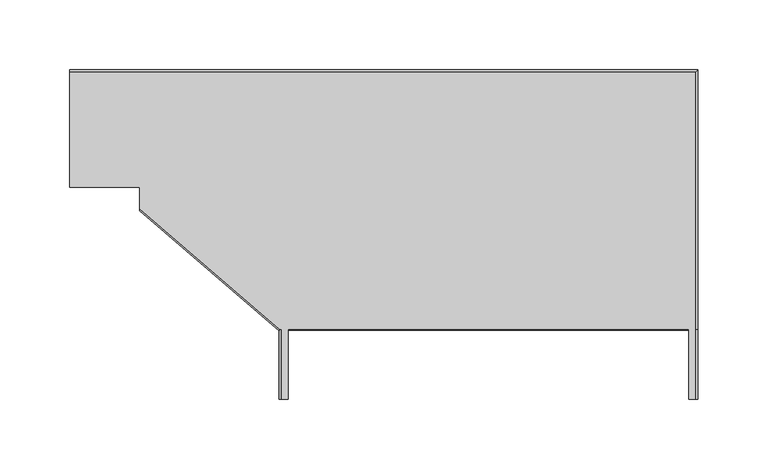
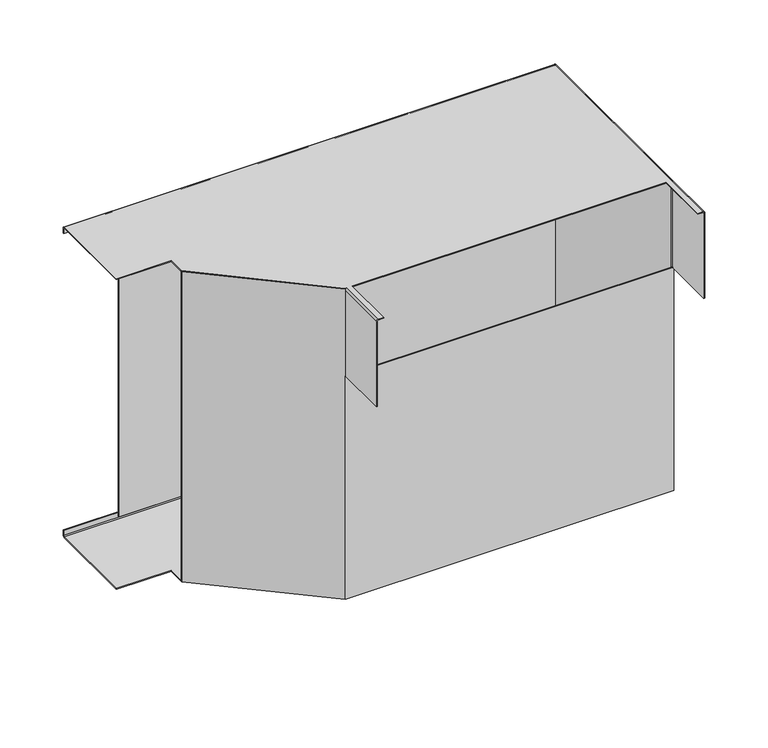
"""IFC4 building model written with IfcOpenShell, lengths in millimetres: cable carrier fitting geometry, КМ Профиль Угол внутренний вертикальный с разворотом трассы на 90 NLPD90-R : Угол внутренний вертикальный с разворотом трассы на 90 NLPD90-R."""

from ifc_helpers import new_model, si_unit, frame, origin, place, context, project, spatial, polyline, circle_curve, ellipse_curve, outline, extrude, faceted_brep, source, transform, mapped, element, save
from ifc_brep_helpers import plane_surface, cylinder_surface, revolved_surface, advanced_brep


def cable_carrier_fitting_8e6cfca8(model_context):
    return source(origin(), model_context, "Body", "SolidModel", [
        faceted_brep([(150.0, -135.8, 66.0), (-150.0, -135.8, 66.0), (-150.0, -136.6, 66.0), (150.0, -136.6, 66.0), (150.0, -135.8, -150.0), (150.0, -136.6, -150.0), (-150.0, -136.6, -150.0), (-150.0, -136.8541086, -150.0), (-250.0, -51.0541086, -150.0), (-250.0, -50.0, -150.0), (-150.0, -135.8, -150.0), (-150.0, -135.8, 150.0), (-250.0, -50.0, 150.0), (-250.0, -51.0541086, 150.0), (-150.0, -136.8541086, 150.0)], [[[0, 1, 2, 3]], [[4, 5, 6, 7, 8, 9, 10]], [[1, 0, 4, 10]], [[3, 2, 6, 5]], [[0, 3, 5, 4]], [[11, 12, 13, 14]], [[12, 11, 1, 10, 9]], [[13, 12, 9, 8]], [[14, 13, 8, 7]], [[11, 14, 7, 6, 2, 1]]]),
        extrude(outline(polyline([(-250.0, 48.4), (-250.0, 49.2), (149.2, 49.2), (149.2, -135.8), (148.4, -135.8), (148.4, 48.4), (-250.0, 48.4)])), frame((0.0, 0.0, -147.4), z_axis=(0.0, 0.0, 1.0), x_axis=(1.0, 0.0, 0.0)), (0.0, 0.0, 1.0), 294.8),
        advanced_brep(
        [(-250.0, -34.0, 150.0), (-300.0, -34.0, 150.0), (-300.0, -34.0, 149.2), (-250.0, -34.0, 149.2), (-250.0, -50.0, 150.0), (-150.0, -135.8, 150.0), (-148.2, -135.8, 150.0), (-148.2, -185.8, 150.0), (-143.5, -185.8, 150.0), (-143.5, -135.8, 150.0), (143.5, -135.8, 150.0), (143.5, -185.8, 150.0), (148.2, -185.8, 150.0), (148.2, -135.8, 150.0), (148.2, 48.2, 150.0), (-300.0, 48.2, 150.0), (-300.0, 50.0, 148.2), (-300.0, 50.0, 143.5), (-300.0, 49.2, 143.5), (-300.0, 49.2, 148.2), (-300.0, 48.2, 149.2), (148.2, 48.2, 149.2), (148.2, -135.8, 149.2), (148.2, -185.8, 149.2), (143.5, -185.8, 149.2), (143.5, -135.8, 149.2), (-143.5, -135.8, 149.2), (-143.5, -185.8, 149.2), (-148.2, -185.8, 149.2), (-148.2, -135.8, 149.2), (-149.696663, -135.8, 149.2), (-150.0, -135.8, 149.2), (-250.0, -50.0, 149.2), (149.2, 49.2, 143.5), (149.2, 49.2, 148.2), (150.0, 50.0, 148.2), (150.0, 50.0, 143.5), (150.0, -135.8, 143.5), (149.2, -135.8, 143.5), (149.2, -135.8, 66.0), (149.2, -185.8, 66.0), (149.2, -185.8, 148.2), (149.2, -135.8, 148.2), (150.0, -135.8, 148.2), (150.0, -185.8, 148.2), (150.0, -185.8, 66.0), (150.0, -135.8, 66.0), (-149.2, -135.8, 66.0), (-149.2, -185.8, 66.0), (-150.0, -185.8, 66.0), (-150.0, -135.8, 66.0), (-150.0, -135.8, 148.2), (-149.2, -135.8, 148.2), (-150.0, -185.8, 148.2), (-149.2, -185.8, 148.2)],
        [
            (0, 1),
            (1, 2),
            (2, 3),
            (3, 0),
            (0, 4),
            (4, 5),
            (5, 6),
            (6, 7),
            (7, 8),
            (8, 9),
            (9, 10),
            (10, 11),
            (11, 12),
            (12, 13),
            (13, 14),
            (14, 15),
            (15, 1),
            (15, 16, circle_curve(frame((-300.0, 48.2, 148.2), z_axis=(-1.0, 0.0, 0.0), x_axis=(0.0, 1.0, 0.0)), 1.8)),
            (16, 17),
            (17, 18),
            (18, 19),
            (19, 20, circle_curve(frame((-300.0, 48.2, 148.2), z_axis=(1.0, 0.0, 0.0), x_axis=(0.0, 1.0, 0.0)), 1.0)),
            (20, 2),
            (20, 21),
            (21, 22),
            (22, 23),
            (23, 24),
            (24, 25),
            (25, 26),
            (26, 27),
            (27, 28),
            (28, 29),
            (29, 30),
            (30, 31),
            (31, 32),
            (32, 3),
            (18, 33),
            (33, 34),
            (34, 19),
            (34, 21, ellipse_curve(frame((148.2, 48.2, 148.2), z_axis=(0.7071067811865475, -0.7071067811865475, 0.0), x_axis=(0.7071067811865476, 0.7071067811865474, 0.0)), 1.4142136, 1.0)),
            (14, 35, ellipse_curve(frame((148.2, 48.2, 148.2), z_axis=(-0.7071067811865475, 0.7071067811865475, 0.0), x_axis=(-0.7071067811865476, -0.7071067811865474, 0.0)), 2.5455844, 1.8)),
            (35, 16),
            (35, 36),
            (36, 17),
            (36, 37),
            (37, 38),
            (38, 33),
            (38, 39),
            (39, 40),
            (40, 41),
            (41, 42),
            (42, 34),
            (42, 22, circle_curve(frame((148.2, -135.8, 148.2), z_axis=(0.0, -1.0, 0.0), x_axis=(1.0, 0.0, 0.0)), 1.0)),
            (24, 11),
            (10, 25),
            (13, 43, circle_curve(frame((148.2, -135.8, 148.2), z_axis=(0.0, 1.0, 0.0), x_axis=(1.0, 0.0, 0.0)), 1.8)),
            (43, 35),
            (43, 44),
            (44, 45),
            (45, 46),
            (46, 37),
            (45, 40),
            (39, 46),
            (47, 48),
            (48, 49),
            (49, 50),
            (50, 47),
            (50, 51),
            (51, 30, circle_curve(frame((-148.2, -135.8, 148.2), z_axis=(0.0, 1.0, 0.0), x_axis=(1.0, 0.0, 0.0)), 1.8)),
            (29, 52, circle_curve(frame((-148.2, -135.8, 148.2), z_axis=(0.0, -1.0, 0.0), x_axis=(1.0, 0.0, 0.0)), 1.0)),
            (52, 47),
            (49, 53),
            (53, 51),
            (48, 54),
            (54, 28, circle_curve(frame((-148.2, -185.8, 148.2), z_axis=(0.0, 1.0, 0.0), x_axis=(1.0, 0.0, 0.0)), 1.0)),
            (27, 8),
            (7, 53, circle_curve(frame((-148.2, -185.8, 148.2), z_axis=(0.0, -1.0, 0.0), x_axis=(1.0, 0.0, 0.0)), 1.8)),
            (44, 12, circle_curve(frame((148.2, -185.8, 148.2), z_axis=(0.0, -1.0, 0.0), x_axis=(1.0, 0.0, 0.0)), 1.8)),
            (23, 41, circle_curve(frame((148.2, -185.8, 148.2), z_axis=(0.0, 1.0, 0.0), x_axis=(1.0, 0.0, 0.0)), 1.0)),
            (52, 54),
            (4, 32),
            (31, 5),
            (9, 26),
            (30, 6, circle_curve(frame((-148.2, -135.8, 148.2), z_axis=(0.0, 1.0, 0.0), x_axis=(1.0, 0.0, 0.0)), 1.8)),
        ],
        [
            plane_surface(frame((-300.0, -34.0, 150.0), z_axis=(0.0, -1.0, 0.0), x_axis=(-1.0, 0.0, 0.0))),
            plane_surface(frame((-250.0, -34.0, 150.0), z_axis=(0.0, 0.0, 1.0), x_axis=(0.0, 1.0, 0.0))),
            plane_surface(frame((-300.0, -34.0, 150.0), z_axis=(-1.0, 0.0, 0.0), x_axis=(0.0, 1.0, 0.0))),
            plane_surface(frame((-300.0, -34.0, 149.2), z_axis=(0.0, 0.0, -1.0), x_axis=(0.0, 1.0, 0.0))),
            plane_surface(frame((-300.0, 49.2, 143.5), z_axis=(0.0, -1.0, 0.0), x_axis=(1.0, 0.0, 0.0))),
            revolved_surface(polyline([(149.20000002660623, 49.2, 148.2), (-300.0, 49.2, 148.2)]), (-300.0, 48.2, 148.2), (1.0, 0.0, 0.0)),
            cylinder_surface(frame((-300.0, 48.2, 148.2), z_axis=(-1.0, 0.0, 0.0), x_axis=(0.0, 1.0, 0.0)), 1.8),
            plane_surface(frame((-300.0, 50.0, 148.2), z_axis=(0.0, 1.0, 0.0), x_axis=(1.0, 0.0, 0.0))),
            plane_surface(frame((-300.0, 50.0, 143.5), z_axis=(0.0, 0.0, -1.0), x_axis=(1.0, 0.0, 0.0))),
            plane_surface(frame((149.2, 49.2, 143.5), z_axis=(-1.0, 0.0, 0.0), x_axis=(0.0, -1.0, 0.0))),
            revolved_surface(polyline([(149.2, -135.8, 148.2), (149.2, 49.20000002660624, 148.2)]), (148.2, 50.0, 148.2), (0.0, -1.0, 0.0)),
            plane_surface(frame((143.5, 43.5, 149.2), z_axis=(-1.0, 0.0, 0.0), x_axis=(0.0, -1.0, 0.0))),
            cylinder_surface(frame((148.2, 50.0, 148.2), z_axis=(0.0, 1.0, 0.0), x_axis=(1.0, 0.0, 0.0)), 1.8),
            plane_surface(frame((150.0, 50.0, 148.2), z_axis=(1.0, 0.0, 0.0), x_axis=(0.0, -1.0, 0.0))),
            plane_surface(frame((-150.0, -135.8, 66.0), z_axis=(0.0, 0.0, -1.0), x_axis=(1.0, 0.0, 0.0))),
            plane_surface(frame((-149.2, -135.8, 143.5), z_axis=(0.0, 1.0, 0.0), x_axis=(0.0, 0.0, -1.0))),
            plane_surface(frame((-150.0, -135.8, 143.5), z_axis=(-1.0, 0.0, 0.0), x_axis=(0.0, 0.0, -1.0))),
            plane_surface(frame((-150.0, -185.8, 143.5), z_axis=(0.0, -1.0, 0.0), x_axis=(0.0, 0.0, -1.0))),
            plane_surface(frame((-149.2, -185.8, 143.5), z_axis=(1.0, 0.0, 0.0), x_axis=(0.0, 0.0, -1.0))),
            plane_surface(frame((150.0, -135.8, 143.5), z_axis=(0.0, 1.0, 0.0), x_axis=(0.0, 0.0, -1.0))),
            plane_surface(frame((-250.0, -50.0, 150.0), z_axis=(-0.6511662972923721, -0.7589350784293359, 0.0), x_axis=(0.0, 0.0, -1.0))),
            plane_surface(frame((-150.0, -135.8, 150.0), z_axis=(0.0, -1.0, 0.0), x_axis=(0.0, 0.0, -1.0))),
            plane_surface(frame((-250.0, 43.5, 150.0), z_axis=(-1.0, 0.0, 0.0), x_axis=(0.0, 0.0, -1.0))),
            plane_surface(frame((-143.5, -135.8, 150.0), z_axis=(1.0, 0.0, 0.0), x_axis=(0.0, -1.0, 0.0))),
            cylinder_surface(frame((-148.2, -135.8, 148.2), z_axis=(0.0, 1.0, 0.0), x_axis=(1.0, 0.0, 0.0)), 1.8),
            revolved_surface(polyline([(-147.2, -185.8, 148.2), (-147.2, -135.8, 148.2)]), (-148.2, -135.8, 148.2), (0.0, -1.0, 0.0)),
            cylinder_surface(frame((148.2, -135.8, 148.2), z_axis=(0.0, 1.0, 0.0), x_axis=(1.0, 0.0, 0.0)), 1.8),
            revolved_surface(polyline([(149.2, -185.8, 148.2), (149.2, -135.8, 148.2)]), (148.2, -135.8, 148.2), (0.0, -1.0, 0.0)),
        ],
        [
            (0, [[1, 2, 3, 4]]),
            (1, [[-1, 5, 6, 7, 8, 9, 10, 11, 12, 13, 14, 15, 16, 17]]),
            (2, [[-2, -17, 18, 19, 20, 21, 22, 23]]),
            (3, [[-3, -23, 24, 25, 26, 27, 28, 29, 30, 31, 32, 33, 34, 35, 36]]),
            (4, [[-21, 37, 38, 39]]),
            (5, [[-22, -39, 40, -24]]),
            (6, [[-18, -16, 41, 42]]),
            (7, [[-19, -42, 43, 44]]),
            (8, [[-20, -44, 45, 46, 47, -37]]),
            (9, [[-38, -47, 48, 49, 50, 51, 52]]),
            (10, [[-40, -52, 53, -25]]),
            (11, [[54, -12, 55, -28]]),
            (12, [[-15, 56, 57, -41]]),
            (13, [[-43, -57, 58, 59, 60, 61, -45]]),
            (14, [[-60, 62, -49, 63]]),
            (14, [[64, 65, 66, 67]]),
            (15, [[-67, 68, 69, -33, 70, 71]]),
            (16, [[-66, 72, 73, -68]]),
            (17, [[-65, 74, 75, -31, 76, -9, 77, -72]]),
            (17, [[-62, -59, 78, -13, -54, -27, 79, -50]]),
            (18, [[-64, -71, 80, -74]]),
            (19, [[-63, -48, -46, -61]]),
            (20, [[-6, 81, -35, 82]]),
            (21, [[-11, 83, -29, -55]]),
            (21, [[-82, -34, 84, -7]]),
            (22, [[-81, -5, -4, -36]]),
            (23, [[-76, -30, -83, -10]]),
            (24, [[-77, -8, -84, -69, -73]]),
            (25, [[-70, -32, -75, -80]]),
            (26, [[-78, -58, -56, -14]]),
            (27, [[-79, -26, -53, -51]]),
        ],
    ),
        advanced_brep(
        [(-250.0, -34.0, -149.2), (-300.0, -34.0, -149.2), (-300.0, -34.0, -150.0), (-250.0, -34.0, -150.0), (-300.0, 48.2, -149.2), (-300.0, 49.2, -148.2), (-300.0, 49.2, -143.5), (-300.0, 50.0, -143.5), (-300.0, 50.0, -148.2), (-300.0, 48.2, -150.0), (-250.0, -50.0, -149.2), (-150.0, -135.8, -149.2), (148.2, -135.8, -149.2), (148.2, 48.2, -149.2), (148.2, 48.2, -150.0), (148.2, -135.8, -150.0), (-150.0, -135.8, -150.0), (-250.0, -50.0, -150.0), (149.2, 49.2, -143.5), (149.2, -135.8, -143.5), (150.0, -135.8, -143.5), (150.0, 50.0, -143.5), (150.0, 50.0, -148.2), (149.2, 49.2, -148.2), (149.2, -135.8, -148.2), (150.0, -135.8, -148.2)],
        [
            (0, 1),
            (1, 2),
            (2, 3),
            (3, 0),
            (1, 4),
            (4, 5, circle_curve(frame((-300.0, 48.2, -148.2), z_axis=(1.0, 0.0, 0.0), x_axis=(0.0, 1.0, 0.0)), 1.0)),
            (5, 6),
            (6, 7),
            (7, 8),
            (8, 9, circle_curve(frame((-300.0, 48.2, -148.2), z_axis=(-1.0, 0.0, 0.0), x_axis=(0.0, 1.0, 0.0)), 1.8)),
            (9, 2),
            (0, 10),
            (10, 11),
            (11, 12),
            (12, 13),
            (13, 4),
            (9, 14),
            (14, 15),
            (15, 16),
            (16, 17),
            (17, 3),
            (6, 18),
            (18, 19),
            (19, 20),
            (20, 21),
            (21, 7),
            (21, 22),
            (22, 8),
            (22, 14, ellipse_curve(frame((148.2, 48.2, -148.2), z_axis=(-0.7071067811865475, 0.7071067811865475, 0.0), x_axis=(-0.7071067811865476, -0.7071067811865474, 0.0)), 2.5455844, 1.8)),
            (13, 23, ellipse_curve(frame((148.2, 48.2, -148.2), z_axis=(0.7071067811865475, -0.7071067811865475, 0.0), x_axis=(0.7071067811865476, 0.7071067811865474, 0.0)), 1.4142136, 1.0)),
            (23, 5),
            (23, 18),
            (19, 24),
            (24, 12, circle_curve(frame((148.2, -135.8, -148.2), z_axis=(0.0, 1.0, 0.0), x_axis=(1.0, 0.0, 0.0)), 1.0)),
            (11, 16),
            (15, 25, circle_curve(frame((148.2, -135.8, -148.2), z_axis=(0.0, -1.0, 0.0), x_axis=(1.0, 0.0, 0.0)), 1.8)),
            (25, 20),
            (25, 22),
            (24, 23),
            (10, 17),
        ],
        [
            plane_surface(frame((-300.0, -34.0, 150.0), z_axis=(0.0, -1.0, 0.0), x_axis=(-1.0, 0.0, 0.0))),
            plane_surface(frame((-300.0, -34.0, 150.0), z_axis=(-1.0, 0.0, 0.0), x_axis=(0.0, 1.0, 0.0))),
            plane_surface(frame((-250.0, -34.0, -149.2), z_axis=(0.0, 0.0, 1.0), x_axis=(0.0, 1.0, 0.0))),
            plane_surface(frame((-300.0, -34.0, -150.0), z_axis=(0.0, 0.0, -1.0), x_axis=(0.0, 1.0, 0.0))),
            plane_surface(frame((-300.0, 49.2, -143.5), z_axis=(0.0, 0.0, 1.0), x_axis=(1.0, 0.0, 0.0))),
            plane_surface(frame((-300.0, 50.0, -143.5), z_axis=(0.0, 1.0, 0.0), x_axis=(1.0, 0.0, 0.0))),
            cylinder_surface(frame((-300.0, 48.2, -148.2), z_axis=(-1.0, 0.0, 0.0), x_axis=(0.0, 1.0, 0.0)), 1.8),
            revolved_surface(polyline([(149.20000002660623, 49.2, -148.2), (-300.0, 49.2, -148.2)]), (-300.0, 48.2, -148.2), (1.0, 0.0, 0.0)),
            plane_surface(frame((-300.0, 49.2, -148.2), z_axis=(0.0, -1.0, 0.0), x_axis=(1.0, 0.0, 0.0))),
            plane_surface(frame((150.0, -135.8, 0.0), z_axis=(0.0, -1.0, 0.0), x_axis=(0.0, 0.0, 1.0))),
            plane_surface(frame((150.0, 50.0, -143.5), z_axis=(1.0, 0.0, 0.0), x_axis=(0.0, -1.0, 0.0))),
            cylinder_surface(frame((148.2, 50.0, -148.2), z_axis=(0.0, 1.0, 0.0), x_axis=(1.0, 0.0, 0.0)), 1.8),
            revolved_surface(polyline([(149.2, -135.8, -148.2), (149.2, 49.20000002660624, -148.2)]), (148.2, 50.0, -148.2), (0.0, -1.0, 0.0)),
            plane_surface(frame((149.2, 49.2, -148.2), z_axis=(-1.0, 0.0, 0.0), x_axis=(0.0, -1.0, 0.0))),
            plane_surface(frame((-250.0, -50.0, -149.2), z_axis=(-0.6511662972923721, -0.7589350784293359, 0.0), x_axis=(0.0, 0.0, -1.0))),
            plane_surface(frame((-250.0, 43.5, -149.2), z_axis=(-1.0, 0.0, 0.0), x_axis=(0.0, 0.0, -1.0))),
        ],
        [
            (0, [[1, 2, 3, 4]]),
            (1, [[-2, 5, 6, 7, 8, 9, 10, 11]]),
            (2, [[-1, 12, 13, 14, 15, 16, -5]]),
            (3, [[-3, -11, 17, 18, 19, 20, 21]]),
            (4, [[-8, 22, 23, 24, 25, 26]]),
            (5, [[-9, -26, 27, 28]]),
            (6, [[-10, -28, 29, -17]]),
            (7, [[-6, -16, 30, 31]]),
            (8, [[-7, -31, 32, -22]]),
            (9, [[-24, 33, 34, -14, 35, -19, 36, 37]]),
            (10, [[-25, -37, 38, -27]]),
            (11, [[-29, -38, -36, -18]]),
            (12, [[-15, -34, 39, -30]]),
            (13, [[-23, -32, -39, -33]]),
            (14, [[-13, 40, -20, -35]]),
            (15, [[-40, -12, -4, -21]]),
        ],
    ),
    ])


if __name__ == "__main__":
    model = new_model("IFC4")
    model_context = context("Model", 3, world=origin())
    ifc_project = project(units=[si_unit("LENGTHUNIT", "METRE", prefix="MILLI")], contexts=[model_context])
    site = spatial("IfcSite", under=ifc_project)
    building = spatial("IfcBuilding", under=site)
    placement = place(None, origin())
    cable_carrier_fitting_shape = cable_carrier_fitting_8e6cfca8(model_context)
    element("IfcCableCarrierFitting", 1, ObjectType="КМ Профиль Угол внутренний вертикальный с разворотом трассы на 90 NLPD90-R : Угол внутренний вертикальный с разворотом трассы на 90 NLPD90-R", at=placement, inside=building, context=model_context, shape_type="MappedRepresentation", body=[
        mapped(cable_carrier_fitting_shape, transform((0.0, 0.0, 0.0), x_axis=(1.0, 0.0, 0.0), y_axis=(0.0, 1.0, 0.0), z_axis=(0.0, 0.0, 1.0))),
    ])
    save(model, "model.ifc")
